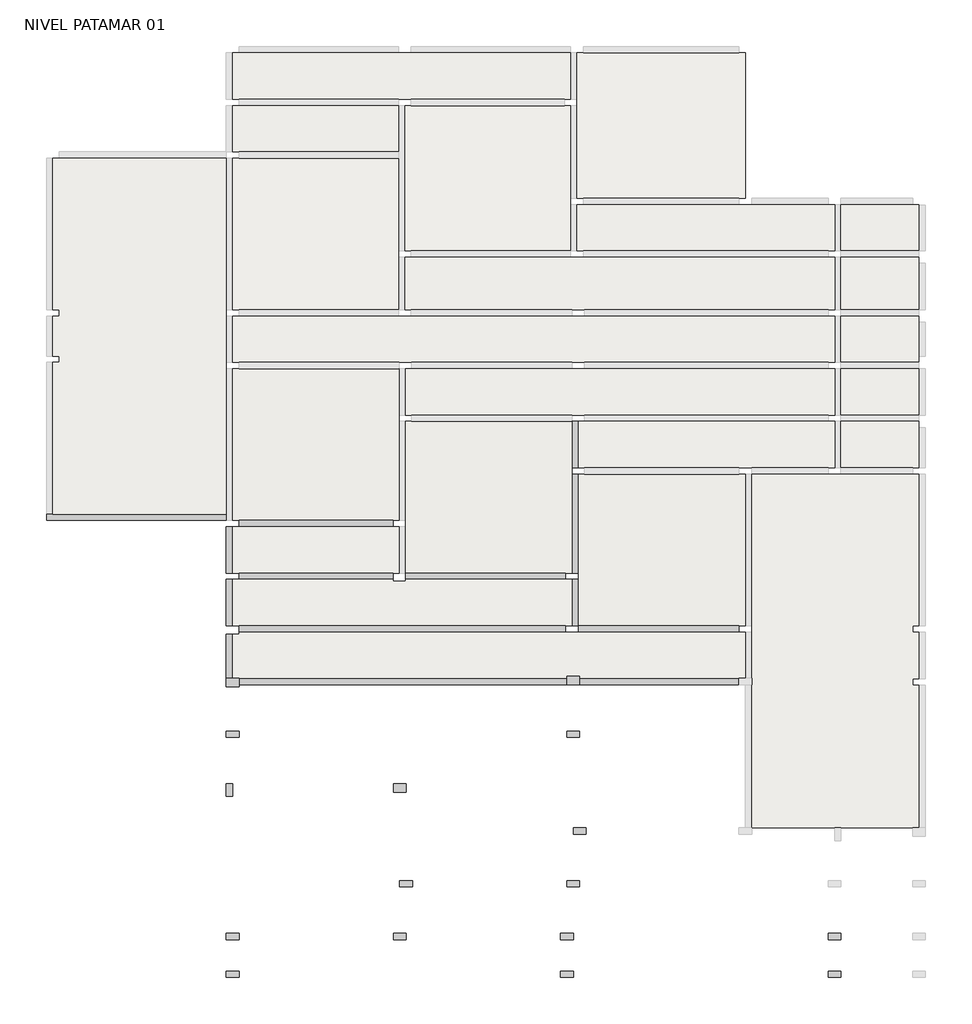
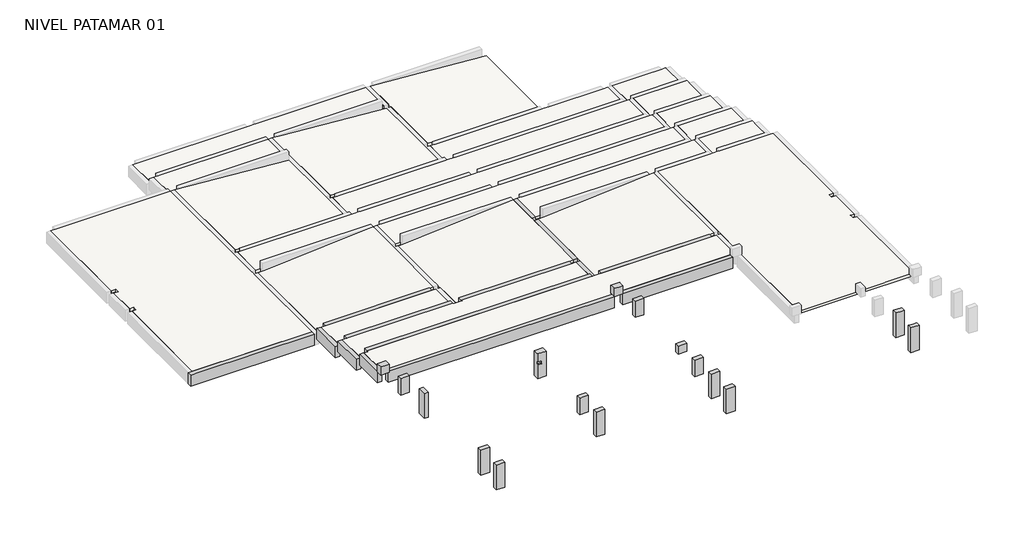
# One storey, part 1 of 2: 23 slabs, 16 columns, 9 beams.
"""IFC4 building model written with IfcOpenShell, lengths in millimetres."""

from ifc_helpers import new_model, si_unit, frame, origin, place, context, project, spatial, polyline, outline, extrude, faceted_brep, element, save

model = new_model("IFC4")

# Units and contexts
model_context = context("Model", 3, world=origin())
ifc_project = project(units=[si_unit("LENGTHUNIT", "METRE", prefix="MILLI")], contexts=[model_context])

# Site, building, storey
site = spatial("IfcSite", under=ifc_project)
building = spatial("IfcBuilding", under=site)
storey = spatial("IfcBuildingStorey", under=building, Name="NIVEL PATAMAR 01", Elevation=2700.0)

# Beams
placement = place(None, origin())
element("IfcBeam", 1, ObjectType="TQS - Viga retangular : 15,0 x 40,0", at=placement, inside=storey, context=model_context, shape_type="Brep", body=[
    faceted_brep([(50000.0, -4080.0, 2700.0), (50000.0, -3930.0, 2700.0), (46210.0, -3930.0, 2700.0), (46210.0, -4080.0, 2700.0), (50000.0, -4080.0, 2300.0), (46210.0, -4080.0, 2300.0), (50000.0, -3930.0, 2300.0), (46210.0, -3930.0, 2300.0), (46210.0, -3930.0, 2600.0)], [[[0, 1, 2, 3]], [[4, 0, 3, 5]], [[6, 4, 5, 7]], [[1, 6, 7, 8, 2]], [[1, 0, 4, 6]], [[3, 2, 8, 7, 5]]]),
    faceted_brep([(45910.0, -3930.0, 2700.0), (45910.0, -4080.0, 2700.0), (45910.0, -4080.0, 2300.0), (45910.0, -3930.0, 2300.0), (45910.0, -3930.0, 2600.0), (38132.7, -3930.0, 2700.0), (38120.0, -3930.0, 2700.0), (38120.0, -4080.0, 2700.0), (38132.7, -4080.0, 2700.0), (38120.0, -4080.0, 2300.0), (38120.0, -3930.0, 2300.0)], [[[0, 1, 2, 3, 4]], [[1, 0, 5, 6, 7, 8]], [[2, 1, 8, 7, 9]], [[3, 2, 9, 10]], [[0, 4, 3, 10, 6, 5]], [[7, 6, 10, 9]]]),
])
element("IfcBeam", 2, ObjectType="TQS - Viga retangular : 15,0 x 40,0", at=placement, inside=storey, context=model_context, shape_type="Brep", body=[
    faceted_brep([(38120.0, -2680.0, 2700.0), (38120.0, -2830.0, 2700.0), (45880.0, -2830.0, 2700.0), (45880.0, -2680.0, 2700.0), (38120.0, -2680.0, 2300.0), (45880.0, -2680.0, 2300.0), (38120.0, -2830.0, 2300.0), (45880.0, -2830.0, 2300.0), (38120.0, -2830.0, 2600.0)], [[[0, 1, 2, 3]], [[4, 0, 3, 5]], [[6, 4, 5, 7]], [[1, 8, 6, 7, 2]], [[1, 0, 4, 6, 8]], [[3, 2, 7, 5]]]),
    faceted_brep([(46180.0, -2830.0, 2700.0), (46180.0, -2680.0, 2700.0), (46180.0, -2680.0, 2400.0), (46180.0, -2680.0, 2300.0), (46180.0, -2830.0, 2300.0), (50000.0, -2830.0, 2700.0), (50000.0, -2680.0, 2700.0), (50000.0, -2680.0, 2300.0), (50000.0, -2830.0, 2300.0)], [[[0, 1, 2, 3, 4]], [[1, 0, 5, 6]], [[3, 2, 1, 6, 7]], [[4, 3, 7, 8]], [[0, 4, 8, 5]], [[6, 5, 8, 7]]]),
])
element("IfcBeam", 3, ObjectType="TQS - Viga retangular : 15,0 x 40,0", at=placement, inside=storey, context=model_context, shape_type="Brep", body=[
    faceted_brep([(37970.0, -2880.0, 2700.0), (37820.0, -2880.0, 2700.0), (37820.0, -3930.0, 2700.0), (37970.0, -3930.0, 2700.0), (37970.0, -2880.0, 2300.0), (37970.0, -2880.0, 2600.0), (37970.0, -3930.0, 2600.0), (37970.0, -3930.0, 2300.0), (37820.0, -2880.0, 2300.0), (37820.0, -3930.0, 2300.0)], [[[0, 1, 2, 3]], [[4, 5, 0, 3, 6, 7]], [[8, 4, 7, 9]], [[1, 8, 9, 2]], [[2, 9, 7, 6, 3]], [[1, 0, 5, 4, 8]]]),
])
element("IfcBeam", 4, ObjectType="TQS - Viga retangular : 15,0 x 40,0", at=placement, inside=storey, context=model_context, shape_type="Brep", body=[
    faceted_brep([(37970.0, -1580.0, 2400.0), (37820.0, -1580.0, 2400.0), (37820.0, -2680.0, 2400.0), (37970.0, -2680.0, 2400.0), (37970.0, -1580.0, 2000.0), (37970.0, -1580.0, 2300.0), (37970.0, -2680.0, 2300.0), (37970.0, -2680.0, 2000.0), (37820.0, -1580.0, 2000.0), (37820.0, -2680.0, 2000.0)], [[[0, 1, 2, 3]], [[4, 5, 0, 3, 6, 7]], [[8, 4, 7, 9]], [[1, 8, 9, 2]], [[2, 9, 7, 6, 3]], [[1, 0, 5, 4, 8]]]),
])
element("IfcBeam", 5, ObjectType="TQS - Viga retangular : 15,0 x 40,0", at=placement, inside=storey, context=model_context, shape_type="Brep", body=[
    faceted_brep([(38120.0, -1430.0, 2400.0), (38120.0, -1580.0, 2400.0), (41775.0, -1580.0, 2400.0), (41775.0, -1430.0, 2400.0), (38120.0, -1580.0, 2000.0), (41775.0, -1580.0, 2000.0), (41775.0, -1580.0, 2300.0), (38120.0, -1430.0, 2000.0), (41775.0, -1430.0, 2000.0)], [[[0, 1, 2, 3]], [[1, 4, 5, 6, 2]], [[4, 7, 8, 5]], [[7, 0, 3, 8]], [[1, 0, 7, 4]], [[3, 2, 6, 5, 8]]]),
    faceted_brep([(45880.0, -1430.0, 2400.0), (45880.0, -1580.0, 2400.0), (45880.0, -1580.0, 2000.0), (45880.0, -1430.0, 2000.0), (42075.0, -1580.0, 2400.0), (42075.0, -1430.0, 2400.0), (42075.0, -1430.0, 2100.0), (42075.0, -1430.0, 2000.0), (42075.0, -1580.0, 2000.0), (42075.0, -1580.0, 2300.0)], [[[0, 1, 2, 3]], [[4, 5, 6, 7, 8, 9]], [[1, 0, 5, 4]], [[2, 1, 4, 9, 8]], [[3, 2, 8, 7]], [[0, 3, 7, 6, 5]]]),
])
element("IfcBeam", 6, ObjectType="TQS - Viga retangular : 15,0 x 40,0", at=placement, inside=storey, context=model_context, shape_type="Brep", body=[
    faceted_brep([(46180.0, 2170.0, 2400.0), (46030.0, 2170.0, 2400.0), (46030.0, 1070.0, 2400.0), (46180.0, 1070.0, 2400.0), (46180.0, 2170.0, 2000.0), (46180.0, 2170.0, 2300.0), (46180.0, 1070.0, 2300.0), (46180.0, 1070.0, 2000.0), (46030.0, 2170.0, 2000.0), (46030.0, 1070.0, 2000.0), (46030.0, 2170.0, 2299.7127261)], [[[0, 1, 2, 3]], [[4, 5, 0, 3, 6, 7]], [[8, 4, 7, 9]], [[1, 10, 8, 9, 2]], [[1, 0, 5, 4, 8, 10]], [[3, 2, 9, 7, 6]]]),
    faceted_brep([(46180.0, -1430.0, 2400.0), (46030.0, -1430.0, 2400.0), (46030.0, -1430.0, 2299.7127261), (46030.0, -1430.0, 2000.0), (46180.0, -1430.0, 2000.0), (46030.0, 920.0, 2400.0), (46180.0, 920.0, 2400.0), (46180.0, 920.0, 2299.7148897), (46180.0, 920.0, 2000.0), (46030.0, 920.0, 2000.0)], [[[0, 1, 2, 3, 4]], [[5, 6, 7, 8, 9]], [[1, 0, 6, 5]], [[0, 4, 8, 7, 6]], [[4, 3, 9, 8]], [[3, 2, 1, 5, 9]]]),
    faceted_brep([(46030.0, -1580.0, 2400.0), (46180.0, -1580.0, 2400.0), (46180.0, -1580.0, 2000.0), (46030.0, -1580.0, 2000.0), (46030.0, -1580.0, 2300.0), (46030.0, -2680.0, 2400.0), (46180.0, -2680.0, 2400.0), (46180.0, -2680.0, 2299.7148897), (46180.0, -2680.0, 2000.0), (46030.0, -2680.0, 2000.0), (46030.0, -2680.0, 2300.0)], [[[0, 1, 2, 3, 4]], [[0, 5, 6, 1]], [[1, 6, 7, 8, 2]], [[2, 8, 9, 3]], [[5, 0, 4, 3, 9, 10]], [[5, 10, 9, 8, 7, 6]]]),
])
element("IfcBeam", 7, ObjectType="TQS - Viga retangular : 15,0 x 40,0", at=placement, inside=storey, context=model_context, shape_type="Brep", body=[
    faceted_brep([(33550.0, -30.0, 1800.0), (33550.0, -180.0, 1800.0), (33850.0, -180.0, 1800.0), (37820.0, -180.0, 1800.0), (37820.0, -30.0, 1800.0), (33700.0, -30.0, 1800.0), (33550.0, -30.0, 1400.0), (37820.0, -30.0, 1700.0), (37820.0, -30.0, 1400.0), (33700.0, -30.0, 1400.0), (33550.0, -180.0, 1400.0), (37820.0, -180.0, 1400.0)], [[[0, 1, 2, 3, 4, 5]], [[6, 0, 5, 4, 7, 8, 9]], [[10, 6, 9, 8, 11]], [[1, 10, 11, 3, 2]], [[4, 3, 11, 8, 7]], [[1, 0, 6, 10]]]),
])
element("IfcBeam", 8, ObjectType="TQS - Viga retangular : 15,0 x 40,0", at=placement, inside=storey, context=model_context, shape_type="SweptSolid", body=[
    extrude(outline(polyline([(38120.0, -330.0), (38120.0, -180.0), (41775.0, -180.0), (41775.0, -330.0), (38120.0, -330.0)])), frame((0.0, 0.0, 1700.0), z_axis=(0.0, 0.0, 1.0), x_axis=(1.0, 0.0, 0.0)), (0.0, 0.0, 1.0), 400.0),
])
element("IfcBeam", 9, ObjectType="TQS - Viga retangular : 15,0 x 40,0", at=placement, inside=storey, context=model_context, shape_type="Brep", body=[
    faceted_brep([(37970.0, -330.0, 2100.0), (37820.0, -330.0, 2100.0), (37820.0, -1430.0, 2100.0), (37970.0, -1430.0, 2100.0), (37970.0, -330.0, 1700.0), (37970.0, -330.0, 2000.0), (37970.0, -1430.0, 2000.0), (37970.0, -1430.0, 1700.0), (37820.0, -330.0, 1700.0), (37820.0, -1430.0, 1700.0)], [[[0, 1, 2, 3]], [[4, 5, 0, 3, 6, 7]], [[8, 4, 7, 9]], [[1, 8, 9, 2]], [[2, 9, 7, 6, 3]], [[1, 0, 5, 4, 8]]]),
])

# Columns
element("IfcColumn", 10, ObjectType="TQS - Pilar retangular : 15,0x30,0", at=placement, inside=storey, context=model_context, shape_type="Brep", body=[
    faceted_brep([(38120.0, -11030.0, 2700.0), (37820.0, -11030.0, 2700.0), (37820.0, -10880.0, 2700.0), (38120.0, -10880.0, 2700.0), (38120.0, -11030.0, 3600.0), (37820.0, -11030.0, 3600.0), (38120.0, -11030.0, 3200.0), (37820.0, -10880.0, 3600.0), (37820.0, -10880.0, 3200.0), (37970.0, -10880.0, 3600.0), (38120.0, -10880.0, 3600.0), (38120.0, -10880.0, 3200.0)], [[[0, 1, 2, 3]], [[4, 5, 1, 0, 6]], [[5, 7, 8, 2, 1]], [[7, 9, 10, 11, 3, 2, 8]], [[10, 4, 6, 0, 3, 11]], [[4, 10, 9, 7, 5]]]),
])
element("IfcColumn", 11, ObjectType="TQS - Pilar retangular : 15,0x30,0", at=placement, inside=storey, context=model_context, shape_type="Brep", body=[
    faceted_brep([(38120.0, -10130.0, 2700.0), (37820.0, -10130.0, 2700.0), (37820.0, -9980.0, 2700.0), (38120.0, -9980.0, 2700.0), (38120.0, -10130.0, 3600.0), (37970.0, -10130.0, 3600.0), (37820.0, -10130.0, 3600.0), (37820.0, -10130.0, 3200.0), (38120.0, -10130.0, 3200.0), (37820.0, -9980.0, 3600.0), (37820.0, -9980.0, 3200.0), (37970.0, -9980.0, 3600.0), (38120.0, -9980.0, 3600.0), (38120.0, -9980.0, 3200.0)], [[[0, 1, 2, 3]], [[4, 5, 6, 7, 1, 0, 8]], [[6, 9, 10, 2, 1, 7]], [[9, 11, 12, 13, 3, 2, 10]], [[12, 4, 8, 0, 3, 13]], [[4, 12, 11, 9, 6, 5]]]),
])
element("IfcColumn", 12, ObjectType="TQS - Pilar retangular : 15,0x30,0", at=placement, inside=storey, context=model_context, shape_type="Brep", body=[
    faceted_brep([(37970.0, -6430.0, 2700.0), (37970.0, -6730.0, 2700.0), (37820.0, -6730.0, 2700.0), (37820.0, -6430.0, 2700.0), (37970.0, -6430.0, 3600.0), (37970.0, -6580.0, 3600.0), (37970.0, -6730.0, 3600.0), (37970.0, -6730.0, 3200.0), (37970.0, -6430.0, 2900.0), (37970.0, -6430.0, 3200.0), (37970.0, -6430.0, 3300.0), (37820.0, -6730.0, 3600.0), (37820.0, -6730.0, 3200.0), (37820.0, -6430.0, 3600.0), (37820.0, -6430.0, 3300.0), (37820.0, -6430.0, 2900.0)], [[[0, 1, 2, 3]], [[4, 5, 6, 7, 1, 0, 8, 9, 10]], [[6, 11, 12, 2, 1, 7]], [[11, 13, 14, 15, 3, 2, 12]], [[13, 4, 10, 9, 8, 0, 3, 15, 14]], [[4, 13, 11, 6, 5]]]),
])
element("IfcColumn", 13, ObjectType="TQS - Pilar retangular : 15,0x30,0", at=placement, inside=storey, context=model_context, shape_type="Brep", body=[
    faceted_brep([(42090.0, -10130.0, 2700.0), (41790.0, -10130.0, 2700.0), (41790.0, -9980.0, 2700.0), (42090.0, -9980.0, 2700.0), (42090.0, -10130.0, 3600.0), (41790.0, -10130.0, 3600.0), (41790.0, -10130.0, 3200.0), (42090.0, -10130.0, 3200.0), (41790.0, -9980.0, 3600.0), (41790.0, -9980.0, 3200.0), (42090.0, -9980.0, 3600.0), (42090.0, -9980.0, 3300.0), (42090.0, -9980.0, 3200.0), (42090.0, -9980.0, 2900.0)], [[[0, 1, 2, 3]], [[4, 5, 6, 1, 0, 7]], [[5, 8, 9, 2, 1, 6]], [[8, 10, 11, 12, 13, 3, 2, 9]], [[10, 4, 7, 0, 3, 13, 12, 11]], [[4, 10, 8, 5]]]),
])
element("IfcColumn", 14, ObjectType="TQS - Pilar retangular : 15,0x30,0", at=placement, inside=storey, context=model_context, shape_type="Brep", body=[
    faceted_brep([(46210.0, -5330.0, 2700.0), (45910.0, -5330.0, 2700.0), (45910.0, -5180.0, 2700.0), (46210.0, -5180.0, 2700.0), (46210.0, -5330.0, 3300.0), (45910.0, -5330.0, 3300.0), (45910.0, -5330.0, 2900.0), (46210.0, -5330.0, 3000.0), (45910.0, -5180.0, 3300.0), (45910.0, -5180.0, 2900.0), (46210.0, -5180.0, 3300.0), (46210.0, -5180.0, 3000.0)], [[[0, 1, 2, 3]], [[4, 5, 6, 1, 0, 7]], [[5, 8, 9, 2, 1, 6]], [[8, 10, 11, 3, 2, 9]], [[10, 4, 7, 0, 3, 11]], [[4, 10, 8, 5]]]),
])
element("IfcColumn", 15, ObjectType="TQS - Pilar retangular : 15,0x30,0", at=placement, inside=storey, context=model_context, shape_type="Brep", body=[
    faceted_brep([(46210.0, -8880.0, 2700.0), (45910.0, -8880.0, 2700.0), (45910.0, -8730.0, 2700.0), (46210.0, -8730.0, 2700.0), (46210.0, -8880.0, 3300.0), (45910.0, -8880.0, 3300.0), (45910.0, -8880.0, 2900.0), (46210.0, -8880.0, 2900.0), (45910.0, -8730.0, 3300.0), (45910.0, -8730.0, 2900.0), (46210.0, -8730.0, 3300.0), (46210.0, -8730.0, 3000.0), (46210.0, -8730.0, 2900.0)], [[[0, 1, 2, 3]], [[4, 5, 6, 1, 0, 7]], [[5, 8, 9, 2, 1, 6]], [[8, 10, 11, 12, 3, 2, 9]], [[10, 4, 7, 0, 3, 12, 11]], [[4, 10, 8, 5]]]),
])
element("IfcColumn", 16, ObjectType="TQS - Pilar retangular : 15,0x30,0", at=placement, inside=storey, context=model_context, shape_type="Brep", body=[
    faceted_brep([(46060.0, -10130.0, 2700.0), (45760.0, -10130.0, 2700.0), (45760.0, -9980.0, 2700.0), (46060.0, -9980.0, 2700.0), (46060.0, -10130.0, 3600.0), (45760.0, -10130.0, 3600.0), (45760.0, -10130.0, 3200.0), (46060.0, -10130.0, 3200.0), (45760.0, -9980.0, 3600.0), (45760.0, -9980.0, 3200.0), (46060.0, -9980.0, 3600.0), (46060.0, -9980.0, 3200.0)], [[[0, 1, 2, 3]], [[4, 5, 6, 1, 0, 7]], [[5, 8, 9, 2, 1, 6]], [[8, 10, 11, 3, 2, 9]], [[10, 4, 7, 0, 3, 11]], [[4, 10, 8, 5]]]),
])
element("IfcColumn", 17, ObjectType="TQS - Pilar retangular : 15,0x30,0", at=placement, inside=storey, context=model_context, shape_type="Brep", body=[
    faceted_brep([(46060.0, -11030.0, 2700.0), (45760.0, -11030.0, 2700.0), (45760.0, -10880.0, 2700.0), (46060.0, -10880.0, 2700.0), (46060.0, -11030.0, 3600.0), (45760.0, -11030.0, 3600.0), (45760.0, -11030.0, 3200.0), (46060.0, -11030.0, 3200.0), (45760.0, -10880.0, 3600.0), (45760.0, -10880.0, 3200.0), (46060.0, -10880.0, 3600.0), (46060.0, -10880.0, 3200.0)], [[[0, 1, 2, 3]], [[4, 5, 6, 1, 0, 7]], [[5, 8, 9, 2, 1, 6]], [[8, 10, 11, 3, 2, 9]], [[10, 4, 7, 0, 3, 11]], [[4, 10, 8, 5]]]),
])
element("IfcColumn", 18, ObjectType="TQS - Pilar retangular : 15,0x30,0", at=placement, inside=storey, context=model_context, shape_type="Brep", body=[
    faceted_brep([(52420.0, -10130.0, 2700.0), (52120.0, -10130.0, 2700.0), (52120.0, -9980.0, 2700.0), (52420.0, -9980.0, 2700.0), (52420.0, -10130.0, 3600.0), (52270.0, -10130.0, 3600.0), (52120.0, -10130.0, 3600.0), (52120.0, -10130.0, 3200.0), (52420.0, -10130.0, 3200.0), (52120.0, -9980.0, 3600.0), (52120.0, -9980.0, 3200.0), (52420.0, -9980.0, 3600.0), (52420.0, -9980.0, 3300.0), (52420.0, -9980.0, 3200.0), (52420.0, -9980.0, 2900.0)], [[[0, 1, 2, 3]], [[4, 5, 6, 7, 1, 0, 8]], [[6, 9, 10, 2, 1, 7]], [[9, 11, 12, 13, 14, 3, 2, 10]], [[11, 4, 8, 0, 3, 14, 13, 12]], [[4, 11, 9, 6, 5]]]),
])
element("IfcColumn", 19, ObjectType="TQS - Pilar retangular : 15,0x30,0", at=placement, inside=storey, context=model_context, shape_type="Brep", body=[
    faceted_brep([(52420.0, -11030.0, 2700.0), (52120.0, -11030.0, 2700.0), (52120.0, -10880.0, 2700.0), (52420.0, -10880.0, 2700.0), (52420.0, -11030.0, 3600.0), (52120.0, -11030.0, 3600.0), (52120.0, -11030.0, 3200.0), (52420.0, -11030.0, 3200.0), (52120.0, -10880.0, 3600.0), (52120.0, -10880.0, 3200.0), (52270.0, -10880.0, 3600.0), (52420.0, -10880.0, 3600.0), (52420.0, -10880.0, 3200.0)], [[[0, 1, 2, 3]], [[4, 5, 6, 1, 0, 7]], [[5, 8, 9, 2, 1, 6]], [[8, 10, 11, 12, 3, 2, 9]], [[11, 4, 7, 0, 3, 12]], [[4, 11, 10, 8, 5]]]),
])
element("IfcColumn", 20, ObjectType="TQS - Pilar retangular : 15,0x30,0", at=placement, inside=storey, context=model_context, shape_type="Brep", body=[
    faceted_brep([(42240.0, -8880.0, 2700.0), (41940.0, -8880.0, 2700.0), (41940.0, -8730.0, 2700.0), (42240.0, -8730.0, 2700.0), (42240.0, -8880.0, 3300.0), (42090.0, -8880.0, 3300.0), (41940.0, -8880.0, 3300.0), (41940.0, -8880.0, 2900.0), (42240.0, -8880.0, 2900.0), (41940.0, -8730.0, 3300.0), (41940.0, -8730.0, 2900.0), (42090.0, -8730.0, 3300.0), (42240.0, -8730.0, 3300.0), (42240.0, -8730.0, 2900.0)], [[[0, 1, 2, 3]], [[4, 5, 6, 7, 1, 0, 8]], [[6, 9, 10, 2, 1, 7]], [[9, 11, 12, 13, 3, 2, 10]], [[12, 4, 8, 0, 3, 13]], [[4, 12, 11, 9, 6, 5]]]),
])
element("IfcColumn", 21, ObjectType="TQS - Pilar retangular : 15,0x30,0", at=placement, inside=storey, context=model_context, shape_type="Brep", body=[
    faceted_brep([(46360.0, -7630.0, 2700.0), (46060.0, -7630.0, 2700.0), (46060.0, -7480.0, 2700.0), (46360.0, -7480.0, 2700.0), (46360.0, -7630.0, 3000.0), (46210.0, -7630.0, 3000.0), (46060.0, -7630.0, 3000.0), (46060.0, -7480.0, 3000.0), (46210.0, -7480.0, 3000.0), (46360.0, -7480.0, 3000.0)], [[[0, 1, 2, 3]], [[4, 5, 6, 1, 0]], [[6, 7, 2, 1]], [[7, 8, 9, 3, 2]], [[9, 4, 0, 3]], [[4, 9, 8, 7, 6, 5]]]),
])
element("IfcColumn", 22, ObjectType="TQS - Pilar retangular : 15,0x30,0", at=placement, inside=storey, context=model_context, shape_type="Brep", body=[
    faceted_brep([(37820.0, -5180.0, 2700.0), (38120.0, -5180.0, 2700.0), (38120.0, -5330.0, 2700.0), (37820.0, -5330.0, 2700.0), (37820.0, -5180.0, 3300.0), (38120.0, -5180.0, 3300.0), (38120.0, -5180.0, 2900.0), (37820.0, -5180.0, 3000.0), (38120.0, -5330.0, 3300.0), (38120.0, -5330.0, 2900.0), (37970.0, -5330.0, 3300.0), (37820.0, -5330.0, 3300.0), (37820.0, -5330.0, 2900.0)], [[[0, 1, 2, 3]], [[4, 5, 6, 1, 0, 7]], [[5, 8, 9, 2, 1, 6]], [[8, 10, 11, 12, 3, 2, 9]], [[11, 4, 7, 0, 3, 12]], [[4, 11, 10, 8, 5]]]),
])
element("IfcColumn", 23, ObjectType="TQS - Pilar retangular : 20,0x30,0", at=placement, inside=storey, context=model_context, shape_type="Brep", body=[
    faceted_brep([(42090.0, -6630.0, 2700.0), (41790.0, -6630.0, 2700.0), (41790.0, -6430.0, 2700.0), (42090.0, -6430.0, 2700.0), (42090.0, -6630.0, 2900.0), (42090.0, -6630.0, 3300.0), (42090.0, -6630.0, 3600.0), (41790.0, -6630.0, 3600.0), (41790.0, -6630.0, 3311.3350126), (41940.0, -6630.0, 3300.0), (41940.0, -6630.0, 3199.7148897), (41790.0, -6630.0, 3211.0499023), (41790.0, -6580.0, 3211.0499023), (41790.0, -6580.0, 3311.3350126), (41790.0, -6580.0, 3600.0), (41790.0, -6430.0, 3600.0), (41790.0, -6430.0, 3200.0), (42090.0, -6430.0, 3600.0), (42090.0, -6430.0, 3300.0), (42090.0, -6430.0, 2900.0), (41940.0, -6580.0, 3199.7148897), (41940.0, -6580.0, 3300.0)], [[[0, 1, 2, 3]], [[1, 0, 4, 5, 6, 7, 8, 9, 10, 11]], [[2, 1, 11, 12, 13, 8, 7, 14, 15, 16]], [[3, 2, 16, 15, 17, 18, 19]], [[0, 3, 19, 18, 17, 6, 5, 4]], [[7, 6, 17, 15, 14]], [[10, 20, 12, 11]], [[13, 21, 9, 8]], [[20, 21, 13, 12]], [[21, 20, 10, 9]]]),
])
element("IfcColumn", 24, ObjectType="TQS - Pilar retangular : 20,0x30,0", at=placement, inside=storey, context=model_context, shape_type="Brep", body=[
    faceted_brep([(45910.0, -3880.0, 2700.0), (46210.0, -3880.0, 2700.0), (46210.0, -3930.0, 2700.0), (46210.0, -4080.0, 2700.0), (45910.0, -4080.0, 2700.0), (45910.0, -3930.0, 2700.0), (45910.0, -3880.0, 3000.0), (46210.0, -3880.0, 3000.0), (46210.0, -3930.0, 3000.0), (46210.0, -4080.0, 3000.0), (46060.0, -4080.0, 3000.0), (45910.0, -4080.0, 3000.0), (45910.0, -3930.0, 3000.0)], [[[0, 1, 2, 3, 4, 5]], [[6, 7, 1, 0]], [[7, 8, 9, 3, 2, 1]], [[9, 10, 11, 4, 3]], [[11, 12, 6, 0, 5, 4]], [[6, 12, 11, 10, 9, 8, 7]]]),
])
element("IfcColumn", 25, ObjectType="TQS - Pilar retangular : 20,0x30,0", at=placement, inside=storey, context=model_context, shape_type="Brep", body=[
    faceted_brep([(37820.0, -3930.0, 2700.0), (38120.0, -3930.0, 2700.0), (38120.0, -4130.0, 2700.0), (37820.0, -4130.0, 2700.0), (37820.0, -3930.0, 3000.0), (38120.0, -3930.0, 3000.0), (38120.0, -4080.0, 3000.0), (38120.0, -4130.0, 3000.0), (38120.0, -4130.0, 2900.0), (37970.0, -4130.0, 3000.0), (37820.0, -4130.0, 3000.0)], [[[0, 1, 2, 3]], [[1, 0, 4, 5]], [[2, 1, 5, 6, 7, 8]], [[3, 2, 8, 7, 9, 10]], [[0, 3, 10, 4]], [[5, 4, 10, 9, 7, 6]]]),
])

# Slabs
element("IfcSlab", 26, ObjectType="h=10", at=placement, inside=storey, context=model_context, shape_type="Brep", body=[
    faceted_brep([(50150.0, -2830.0, 2600.0), (50150.0, -3930.0, 2600.0), (46210.0, -3930.0, 2600.0), (46210.0, -3880.0, 2600.0), (45910.0, -3880.0, 2600.0), (45910.0, -3930.0, 2600.0), (37970.0, -3930.0, 2600.0), (37970.0, -2880.0, 2600.0), (38120.0, -2880.0, 2600.0), (38120.0, -2830.0, 2600.0), (50150.0, -2830.0, 2700.0), (50000.0, -2830.0, 2700.0), (46180.0, -2830.0, 2700.0), (45880.0, -2830.0, 2700.0), (38120.0, -2830.0, 2700.0), (38120.0, -2880.0, 2700.0), (37970.0, -2880.0, 2700.0), (37970.0, -3930.0, 2700.0), (38120.0, -3930.0, 2700.0), (45910.0, -3930.0, 2700.0), (45910.0, -3880.0, 2700.0), (46210.0, -3880.0, 2700.0), (46210.0, -3930.0, 2700.0), (50000.0, -3930.0, 2700.0), (50150.0, -3930.0, 2700.0)], [[[0, 1, 2, 3, 4, 5, 6, 7, 8, 9]], [[10, 11, 12, 13, 14, 15, 16, 17, 18, 19, 20, 21, 22, 23, 24]], [[1, 0, 10, 24]], [[2, 1, 24, 23, 22]], [[3, 2, 22, 21]], [[4, 3, 21, 20]], [[5, 4, 20, 19]], [[6, 5, 19, 18, 17]], [[7, 6, 17, 16]], [[8, 7, 16, 15]], [[9, 8, 15, 14]], [[0, 9, 14, 13, 12, 11, 10]]]),
])
element("IfcSlab", 27, ObjectType="h=10", at=placement, inside=storey, context=model_context, shape_type="Brep", body=[
    faceted_brep([(37970.0, 3570.0, 1700.0), (37970.0, 4670.0, 1700.0), (52270.0, 4670.0, 1700.0), (52270.0, 3570.0, 1700.0), (52120.0, 3570.0, 1700.0), (46330.0, 3570.0, 1700.0), (46030.0, 3570.0, 1700.0), (42225.0, 3570.0, 1700.0), (41925.0, 3570.0, 1700.0), (38120.0, 3570.0, 1700.0), (37970.0, 3570.0, 1800.0), (52270.0, 3570.0, 1800.0), (52270.0, 4670.0, 1800.0), (52120.0, 4670.0, 1800.0), (46330.0, 4670.0, 1800.0), (46030.0, 4670.0, 1800.0), (42210.0, 4670.0, 1800.0), (41910.0, 4670.0, 1800.0), (38120.0, 4670.0, 1800.0), (37970.0, 4670.0, 1800.0)], [[[0, 1, 2, 3, 4, 5, 6, 7, 8, 9]], [[10, 11, 12, 13, 14, 15, 16, 17, 18, 19]], [[1, 0, 10, 19]], [[2, 1, 19, 18, 17, 16, 15, 14, 13, 12]], [[3, 2, 12, 11]], [[0, 9, 8, 7, 6, 5, 4, 3, 11, 10]]]),
])
element("IfcSlab", 28, ObjectType="h=10", at=placement, inside=storey, context=model_context, shape_type="Brep", body=[
    faceted_brep([(37820.0, 8420.0, 1700.0), (37820.0, -30.0, 1700.0), (33700.0, -30.0, 1700.0), (33700.0, 3570.0, 1700.0), (33850.0, 3570.0, 1700.0), (33850.0, 3720.0, 1700.0), (33700.0, 3720.0, 1700.0), (33700.0, 4670.0, 1700.0), (33850.0, 4670.0, 1700.0), (33850.0, 4820.0, 1700.0), (33700.0, 4820.0, 1700.0), (33700.0, 8420.0, 1700.0), (37820.0, 8420.0, 1800.0), (33850.0, 8420.0, 1800.0), (33700.0, 8420.0, 1800.0), (33700.0, 4820.0, 1800.0), (33850.0, 4820.0, 1800.0), (33850.0, 4670.0, 1800.0), (33700.0, 4670.0, 1800.0), (33700.0, 3720.0, 1800.0), (33850.0, 3720.0, 1800.0), (33850.0, 3570.0, 1800.0), (33700.0, 3570.0, 1800.0), (33700.0, -30.0, 1800.0), (37820.0, -30.0, 1800.0), (37820.0, 3420.0, 1800.0), (37820.0, 3570.0, 1800.0), (37820.0, 4670.0, 1800.0), (37820.0, 4820.0, 1800.0)], [[[0, 1, 2, 3, 4, 5, 6, 7, 8, 9, 10, 11]], [[12, 13, 14, 15, 16, 17, 18, 19, 20, 21, 22, 23, 24, 25, 26, 27, 28]], [[1, 0, 12, 28, 27, 26, 25, 24]], [[2, 1, 24, 23]], [[3, 2, 23, 22]], [[4, 3, 22, 21]], [[5, 4, 21, 20]], [[6, 5, 20, 19]], [[7, 6, 19, 18]], [[8, 7, 18, 17]], [[9, 8, 17, 16]], [[10, 9, 16, 15]], [[11, 10, 15, 14]], [[0, 11, 14, 13, 12]]]),
])
element("IfcSlab", 29, ObjectType="h=10", at=placement, inside=storey, context=model_context, shape_type="Brep", body=[
    faceted_brep([(37970.0, -2680.0, 2300.0), (37970.0, -1580.0, 2300.0), (41775.0, -1580.0, 2300.0), (41775.0, -1630.0, 2300.0), (42075.0, -1630.0, 2300.0), (42075.0, -1580.0, 2300.0), (46030.0, -1580.0, 2300.0), (46030.0, -2680.0, 2300.0), (45880.0, -2680.0, 2300.0), (38120.0, -2680.0, 2300.0), (37970.0, -2680.0, 2400.0), (46030.0, -2680.0, 2400.0), (46030.0, -1580.0, 2400.0), (45880.0, -1580.0, 2400.0), (42075.0, -1580.0, 2400.0), (42075.0, -1630.0, 2400.0), (41775.0, -1630.0, 2400.0), (41775.0, -1580.0, 2400.0), (38120.0, -1580.0, 2400.0), (37970.0, -1580.0, 2400.0)], [[[0, 1, 2, 3, 4, 5, 6, 7, 8, 9]], [[10, 11, 12, 13, 14, 15, 16, 17, 18, 19]], [[1, 0, 10, 19]], [[2, 1, 19, 18, 17]], [[3, 2, 17, 16]], [[4, 3, 16, 15]], [[5, 4, 15, 14]], [[6, 5, 14, 13, 12]], [[7, 6, 12, 11]], [[0, 9, 8, 7, 11, 10]]]),
])
element("IfcSlab", 30, ObjectType="h=10", at=placement, inside=storey, context=model_context, shape_type="Brep", body=[
    faceted_brep([(41925.0, -330.0, 2000.0), (41925.0, -1430.0, 2000.0), (41775.0, -1430.0, 2000.0), (38120.0, -1430.0, 2000.0), (37970.0, -1430.0, 2000.0), (37970.0, -330.0, 2000.0), (41925.0, -330.0, 2100.0), (41775.0, -330.0, 2100.0), (38120.0, -330.0, 2100.0), (37970.0, -330.0, 2100.0), (37970.0, -1430.0, 2100.0), (41925.0, -1430.0, 2100.0)], [[[0, 1, 2, 3, 4, 5]], [[6, 7, 8, 9, 10, 11]], [[1, 0, 6, 11]], [[4, 3, 2, 1, 11, 10]], [[5, 4, 10, 9]], [[0, 5, 9, 8, 7, 6]]]),
])
element("IfcSlab", 31, ObjectType="h=10", at=placement, inside=storey, context=model_context, shape_type="Brep", body=[
    faceted_brep([(46180.0, 1070.0, 2300.0), (46180.0, 2170.0, 2300.0), (52270.0, 2170.0, 2300.0), (52270.0, 1070.0, 2300.0), (52120.0, 1070.0, 2300.0), (50300.0, 1070.0, 2300.0), (50000.0, 1070.0, 2300.0), (46330.0, 1070.0, 2300.0), (46180.0, 1070.0, 2400.0), (52270.0, 1070.0, 2400.0), (52270.0, 2170.0, 2400.0), (52120.0, 2170.0, 2400.0), (46330.0, 2170.0, 2400.0), (46180.0, 2170.0, 2400.0)], [[[0, 1, 2, 3, 4, 5, 6, 7]], [[8, 9, 10, 11, 12, 13]], [[1, 0, 8, 13]], [[2, 1, 13, 12, 11, 10]], [[3, 2, 10, 9]], [[0, 7, 6, 5, 4, 3, 9, 8]]]),
])
element("IfcSlab", 32, ObjectType="h=10", at=placement, inside=storey, context=model_context, shape_type="Brep", body=[
    faceted_brep([(42075.0, 2320.0, 2000.0), (42075.0, 3420.0, 2000.0), (52270.0, 3420.0, 2000.0), (52270.0, 2320.0, 2000.0), (52120.0, 2320.0, 2000.0), (46330.0, 2320.0, 2000.0), (46030.0, 2320.0, 2000.0), (42225.0, 2320.0, 2000.0), (42075.0, 2320.0, 2100.0), (52270.0, 2320.0, 2100.0), (52270.0, 3420.0, 2100.0), (52120.0, 3420.0, 2100.0), (46330.0, 3420.0, 2100.0), (46030.0, 3420.0, 2100.0), (42225.0, 3420.0, 2100.0), (42075.0, 3420.0, 2100.0)], [[[0, 1, 2, 3, 4, 5, 6, 7]], [[8, 9, 10, 11, 12, 13, 14, 15]], [[1, 0, 8, 15]], [[2, 1, 15, 14, 13, 12, 11, 10]], [[3, 2, 10, 9]], [[0, 7, 6, 5, 4, 3, 9, 8]]]),
])
element("IfcSlab", 33, ObjectType="h=10", at=placement, inside=storey, context=model_context, shape_type="Brep", body=[
    faceted_brep([(42060.0, 4820.0, 1400.0), (42060.0, 6070.0, 1400.0), (52270.0, 6070.0, 1400.0), (52270.0, 4820.0, 1400.0), (52120.0, 4820.0, 1400.0), (46330.0, 4820.0, 1400.0), (46030.0, 4820.0, 1400.0), (42210.0, 4820.0, 1400.0), (42060.0, 4820.0, 1500.0), (52270.0, 4820.0, 1500.0), (52270.0, 6070.0, 1500.0), (52120.0, 6070.0, 1500.0), (46300.0, 6070.0, 1500.0), (46000.0, 6070.0, 1500.0), (42210.0, 6070.0, 1500.0), (42060.0, 6070.0, 1500.0)], [[[0, 1, 2, 3, 4, 5, 6, 7]], [[8, 9, 10, 11, 12, 13, 14, 15]], [[1, 0, 8, 15]], [[2, 1, 15, 14, 13, 12, 11, 10]], [[3, 2, 10, 9]], [[0, 7, 6, 5, 4, 3, 9, 8]]]),
])
element("IfcSlab", 34, ObjectType="h=10", at=placement, inside=storey, context=model_context, shape_type="Brep", body=[
    faceted_brep([(46150.0, 6220.0, 1100.0), (46150.0, 7320.0, 1100.0), (52270.0, 7320.0, 1100.0), (52270.0, 6220.0, 1100.0), (52120.0, 6220.0, 1100.0), (52120.0, 6070.0, 1100.0), (46300.0, 6070.0, 1100.0), (46300.0, 6220.0, 1100.0), (46150.0, 6220.0, 1200.0), (46300.0, 6220.0, 1200.0), (46300.0, 6070.0, 1200.0), (52120.0, 6070.0, 1200.0), (52120.0, 6220.0, 1200.0), (52270.0, 6220.0, 1200.0), (52270.0, 7320.0, 1200.0), (52120.0, 7320.0, 1200.0), (50300.0, 7320.0, 1200.0), (50000.0, 7320.0, 1200.0), (46300.0, 7320.0, 1200.0), (46150.0, 7320.0, 1200.0)], [[[0, 1, 2, 3, 4, 5, 6, 7]], [[8, 9, 10, 11, 12, 13, 14, 15, 16, 17, 18, 19]], [[1, 0, 8, 19]], [[2, 1, 19, 18, 17, 16, 15, 14]], [[3, 2, 14, 13]], [[4, 3, 13, 12]], [[5, 4, 12, 11]], [[6, 5, 11, 10]], [[7, 6, 10, 9]], [[0, 7, 9, 8]]]),
])
element("IfcSlab", 35, ObjectType="h=10", at=placement, inside=storey, context=model_context, shape_type="Brep", body=[
    faceted_brep([(37970.0, 9670.0, 1400.0), (41910.0, 9670.0, 1400.0), (41910.0, 8570.0, 1400.0), (38120.0, 8570.0, 1400.0), (37970.0, 8570.0, 1400.0), (37970.0, 9670.0, 1500.0), (37970.0, 8570.0, 1500.0), (41910.0, 8570.0, 1500.0), (41910.0, 9670.0, 1500.0), (38120.0, 9670.0, 1500.0)], [[[0, 1, 2, 3, 4]], [[5, 6, 7, 8, 9]], [[1, 0, 5, 9, 8]], [[2, 1, 8, 7]], [[4, 3, 2, 7, 6]], [[0, 4, 6, 5]]]),
])
element("IfcSlab", 36, ObjectType="h=10", at=placement, inside=storey, context=model_context, shape_type="Brep", body=[
    faceted_brep([(46000.0, 10920.0, 1100.0), (46000.0, 9820.0, 1100.0), (45850.0, 9820.0, 1100.0), (42210.0, 9820.0, 1100.0), (41910.0, 9820.0, 1100.0), (38120.0, 9820.0, 1100.0), (37970.0, 9820.0, 1100.0), (37970.0, 10920.0, 1100.0), (46000.0, 10920.0, 1200.0), (42210.0, 10920.0, 1200.0), (41910.0, 10920.0, 1200.0), (38120.0, 10920.0, 1200.0), (37970.0, 10920.0, 1200.0), (37970.0, 9820.0, 1200.0), (46000.0, 9820.0, 1200.0)], [[[0, 1, 2, 3, 4, 5, 6, 7]], [[8, 9, 10, 11, 12, 13, 14]], [[1, 0, 8, 14]], [[6, 5, 4, 3, 2, 1, 14, 13]], [[7, 6, 13, 12]], [[0, 7, 12, 11, 10, 9, 8]]]),
])
element("IfcSlab", 37, ObjectType="h=10", at=placement, inside=storey, context=model_context, shape_type="Brep", body=[
    faceted_brep([(54270.0, -7480.0, 2600.0), (54107.3, -7480.0, 2600.0), (52420.0, -7480.0, 2600.0), (52270.0, -7480.0, 2600.0), (50300.0, -7480.0, 2600.0), (50300.0, 920.0, 2600.0), (54270.0, 920.0, 2600.0), (54270.0, -2680.0, 2600.0), (54120.0, -2680.0, 2600.0), (54120.0, -2830.0, 2600.0), (54270.0, -2830.0, 2600.0), (54270.0, -3938.8177552, 2600.0), (54120.0, -3938.8177552, 2600.0), (54120.0, -4088.8177552, 2600.0), (54270.0, -4088.8177552, 2600.0), (54270.0, -7480.0, 2700.0), (54270.0, -4088.8177552, 2700.0), (54120.0, -4088.8177552, 2700.0), (54120.0, -3938.8177552, 2700.0), (54270.0, -3938.8177552, 2700.0), (54270.0, -2830.0, 2700.0), (54120.0, -2830.0, 2700.0), (54120.0, -2680.0, 2700.0), (54270.0, -2680.0, 2700.0), (54270.0, 920.0, 2700.0), (54120.0, 920.0, 2700.0), (52420.0, 920.0, 2700.0), (52120.0, 920.0, 2700.0), (50300.0, 920.0, 2700.0), (50300.0, -2680.0, 2700.0), (50300.0, -2830.0, 2700.0), (50300.0, -3930.0, 2700.0), (50300.0, -4080.0, 2700.0), (50300.0, -7480.0, 2700.0), (52270.0, -7480.0, 2700.0), (52420.0, -7480.0, 2700.0), (54120.0, -7480.0, 2700.0)], [[[0, 1, 2, 3, 4, 5, 6, 7, 8, 9, 10, 11, 12, 13, 14]], [[15, 16, 17, 18, 19, 20, 21, 22, 23, 24, 25, 26, 27, 28, 29, 30, 31, 32, 33, 34, 35, 36]], [[4, 3, 2, 1, 0, 15, 36, 35, 34, 33]], [[5, 4, 33, 32, 31, 30, 29, 28]], [[6, 5, 28, 27, 26, 25, 24]], [[7, 6, 24, 23]], [[8, 7, 23, 22]], [[9, 8, 22, 21]], [[10, 9, 21, 20]], [[11, 10, 20, 19]], [[12, 11, 19, 18]], [[13, 12, 18, 17]], [[14, 13, 17, 16]], [[0, 14, 16, 15]]]),
])
element("IfcSlab", 38, ObjectType="h=10", at=placement, inside=storey, context=model_context, shape_type="Brep", body=[
    faceted_brep([(52420.0, 6070.0, 1100.0), (52420.0, 7320.0, 1100.0), (54270.0, 7320.0, 1100.0), (54270.0, 6070.0, 1100.0), (52420.0, 6070.0, 1200.0), (54270.0, 6070.0, 1200.0), (54270.0, 6220.0, 1200.0), (54270.0, 7307.2999994, 1200.0), (54270.0, 7320.0, 1200.0), (54120.0, 7320.0, 1200.0), (52420.0, 7320.0, 1200.0), (52420.0, 6220.0, 1200.0)], [[[0, 1, 2, 3]], [[4, 5, 6, 7, 8, 9, 10, 11]], [[1, 0, 4, 11, 10]], [[2, 1, 10, 9, 8]], [[3, 2, 8, 7, 6, 5]], [[0, 3, 5, 4]]]),
])
element("IfcSlab", 39, ObjectType="h=10", at=placement, inside=storey, context=model_context, shape_type="Brep", body=[
    faceted_brep([(52420.0, 4820.0, 1400.0), (52420.0, 6070.0, 1400.0), (54270.0, 6070.0, 1400.0), (54270.0, 4820.0, 1400.0), (52420.0, 4820.0, 1500.0), (54270.0, 4820.0, 1500.0), (54270.0, 5920.0, 1500.0), (54270.0, 6070.0, 1500.0), (52420.0, 6070.0, 1500.0)], [[[0, 1, 2, 3]], [[4, 5, 6, 7, 8]], [[1, 0, 4, 8]], [[2, 1, 8, 7]], [[3, 2, 7, 6, 5]], [[0, 3, 5, 4]]]),
])
element("IfcSlab", 40, ObjectType="h=10", at=placement, inside=storey, context=model_context, shape_type="Brep", body=[
    faceted_brep([(52420.0, 3570.0, 1700.0), (52420.0, 4670.0, 1700.0), (54270.0, 4670.0, 1700.0), (54270.0, 3570.0, 1700.0), (52420.0, 3570.0, 1800.0), (54270.0, 3570.0, 1800.0), (54270.0, 3720.0, 1800.0), (54270.0, 4520.0, 1800.0), (54270.0, 4670.0, 1800.0), (52420.0, 4670.0, 1800.0)], [[[0, 1, 2, 3]], [[4, 5, 6, 7, 8, 9]], [[1, 0, 4, 9]], [[2, 1, 9, 8]], [[3, 2, 8, 7, 6, 5]], [[0, 3, 5, 4]]]),
])
element("IfcSlab", 41, ObjectType="h=10", at=placement, inside=storey, context=model_context, shape_type="SweptSolid", body=[
    extrude(outline(polyline([(52420.0, 2320.0), (52420.0, 3420.0), (54270.0, 3420.0), (54270.0, 2320.0), (52420.0, 2320.0)])), frame((0.0, 0.0, 2000.0), z_axis=(0.0, 0.0, 1.0), x_axis=(1.0, 0.0, 0.0)), (0.0, 0.0, 1.0), 100.0),
])
element("IfcSlab", 42, ObjectType="h=10", at=placement, inside=storey, context=model_context, shape_type="Brep", body=[
    faceted_brep([(52420.0, 1070.0, 2300.0), (52420.0, 2170.0, 2300.0), (54270.0, 2170.0, 2300.0), (54270.0, 1070.0, 2300.0), (54120.0, 1070.0, 2300.0), (52420.0, 1070.0, 2400.0), (54270.0, 1070.0, 2400.0), (54270.0, 2020.0, 2400.0), (54270.0, 2170.0, 2400.0), (52420.0, 2170.0, 2400.0)], [[[0, 1, 2, 3, 4]], [[5, 6, 7, 8, 9]], [[1, 0, 5, 9]], [[2, 1, 9, 8]], [[3, 2, 8, 7, 6]], [[0, 4, 3, 6, 5]]]),
])
element("IfcSlab", 43, ObjectType="h=10", at=placement, inside=storey, context=model_context, shape_type="Brep", body=[
    faceted_brep([(50150.0, 920.0, 2599.7148897), (50150.0, -2680.0, 2599.7148897), (46180.0, -2680.0, 2299.7148897), (46180.0, 920.0, 2299.7148897), (50150.0, 920.0, 2700.0), (46180.0, 920.0, 2400.0), (46180.0, -2680.0, 2400.0), (50150.0, -2680.0, 2700.0), (46180.0, -2680.0, 2300.0)], [[[0, 1, 2, 3]], [[4, 5, 6, 7]], [[1, 0, 4, 7]], [[2, 1, 7, 6, 8]], [[3, 2, 8, 6, 5]], [[0, 3, 5, 4]]]),
])
element("IfcSlab", 44, ObjectType="h=10", at=placement, inside=storey, context=model_context, shape_type="Brep", body=[
    faceted_brep([(46030.0, 2170.0, 2299.7127261), (46030.0, -1430.0, 2299.7127261), (42075.0, -1430.0, 1999.7127261), (42075.0, 2170.0, 1999.7127261), (46030.0, 2170.0, 2400.0), (42075.0, 2170.0, 2100.0), (42075.0, -1430.0, 2100.0), (46030.0, -1430.0, 2400.0), (42075.0, -1430.0, 2000.0)], [[[0, 1, 2, 3]], [[4, 5, 6, 7]], [[1, 0, 4, 7]], [[2, 1, 7, 6, 8]], [[3, 2, 8, 6, 5]], [[0, 3, 5, 4]]]),
])
element("IfcSlab", 45, ObjectType="h=10", at=placement, inside=storey, context=model_context, shape_type="SweptSolid", body=[
    extrude(outline(polyline([(1699.7127261, 37970.0), (1999.7127261, 41925.0), (2100.0, 41925.0), (1800.0, 37970.0), (1699.7127261, 37970.0)])), frame((0.0, -180.0, 0.0), z_axis=(0.0, 1.0, 0.0), x_axis=(0.0, 0.0, 1.0)), (0.0, 0.0, 1.0), 3600.0),
])
element("IfcSlab", 46, ObjectType="h=10", at=placement, inside=storey, context=model_context, shape_type="Brep", body=[
    faceted_brep([(37970.0, 4820.0, 1699.7105377), (37970.0, 8420.0, 1699.7105377), (41910.0, 8420.0, 1399.7105377), (41910.0, 4820.0, 1399.7105377), (37970.0, 4820.0, 1800.0), (41910.0, 4820.0, 1500.0), (41910.0, 8420.0, 1500.0), (37970.0, 8420.0, 1800.0), (41910.0, 8420.0, 1400.0), (41910.0, 4820.0, 1400.0)], [[[0, 1, 2, 3]], [[4, 5, 6, 7]], [[1, 0, 4, 7]], [[2, 1, 7, 6, 8]], [[3, 2, 8, 6, 5, 9]], [[0, 3, 9, 5, 4]]]),
])
element("IfcSlab", 47, ObjectType="h=10", at=placement, inside=storey, context=model_context, shape_type="Brep", body=[
    faceted_brep([(42060.0, 6220.0, 1399.7105377), (42060.0, 9670.0, 1399.7105377), (46000.0, 9670.0, 1099.7105377), (46000.0, 6220.0, 1099.7105377), (42060.0, 6220.0, 1500.0), (46000.0, 6220.0, 1200.0), (46000.0, 9670.0, 1200.0), (42060.0, 9670.0, 1500.0), (46000.0, 6220.0, 1100.0)], [[[0, 1, 2, 3]], [[4, 5, 6, 7]], [[1, 0, 4, 7]], [[2, 1, 7, 6]], [[3, 2, 6, 5, 8]], [[0, 3, 8, 5, 4]]]),
])
element("IfcSlab", 48, ObjectType="h=10", at=placement, inside=storey, context=model_context, shape_type="Brep", body=[
    faceted_brep([(46150.0, 7470.0, 1099.7191443), (46150.0, 10920.0, 1099.7191443), (50000.0, 10920.0, 810.9690754), (50150.0, 10920.0, 799.7190727), (50150.0, 10870.0, 799.7190727), (50150.0, 7470.0, 799.7190727), (46150.0, 7470.0, 1200.0), (50150.0, 7470.0, 899.9999285), (50150.0, 10920.0, 899.9999285), (50000.0, 10920.0, 911.2499312), (46150.0, 10920.0, 1200.0)], [[[0, 1, 2, 3, 4, 5]], [[6, 7, 8, 9, 10]], [[1, 0, 6, 10]], [[3, 2, 1, 10, 9, 8]], [[5, 4, 3, 8, 7]], [[0, 5, 7, 6]]]),
])

save(model, "model.ifc")
